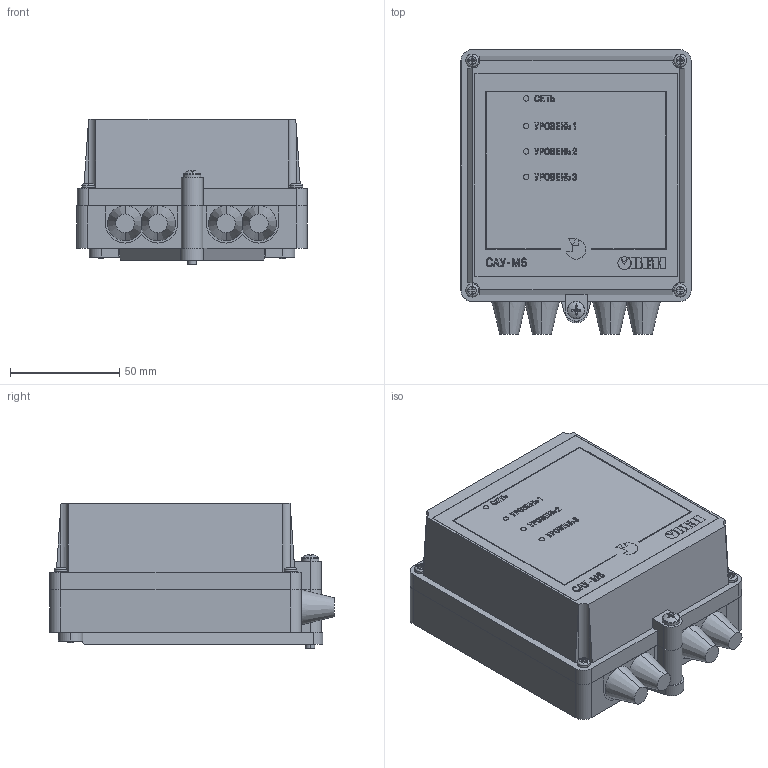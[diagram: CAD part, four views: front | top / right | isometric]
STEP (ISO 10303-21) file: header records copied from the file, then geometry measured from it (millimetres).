
FILE_DESCRIPTION (( 'STEP AP214' ), '1' );
FILE_NAME ('3D Ìîäåëü ÑÀÓ-Ì6.STEP', '2015-08-28T10:32:57', ( '' ), ( '' ), 'SwSTEP 2.0', 'SolidWorks 2013', '' );
FILE_SCHEMA (( 'AUTOMOTIVE_DESIGN' ));
Length unit declared in the file: millimetre
Products named in the file (10): Ïàíåëü ëèöåâàÿ ÑÀÓ-Ì6; 睯艜 膴樖樉; 鎔艜 襞旂 17473_M4x10; ﾊ煇鳫; 砑鳧罻; pan cross head_am_B18.6.7M - M4 x 0.7 x 40 Type I Cross Recessed PHMS --40N; ч蜱齁膱; Êîðïóñ Í_íèç; 扻豵鵨 狉瞂贂; 3D Ìîäåëü ÑÀÓ-Ì6
Assembly tree (15 placements, depth 2):
  3D Ìîäåëü ÑÀÓ-Ì6
    扻豵鵨 狉瞂贂
    Êîðïóñ Í_íèç
    ч蜱齁膱  x2
    pan cross head_am_B18.6.7M - M4 x 0.7 x 40 Type I Cross Recessed PHMS --40N
    砑鳧罻
    ﾊ煇鳫
    鎔艜 襞旂 17473_M4x10  x2
    睯艜 膴樖樉  x5
    Ïàíåëü ëèöåâàÿ ÑÀÓ-Ì6
Bounding box: 105.15 x 130 x 66.6 mm (x, y, z)
Volume: 153661.3 mm3; surface area: 131023.2 mm2
Topology: 15 solids, 15 shells, 995 faces, 2592 edges, 1712 vertices
Faces by surface type: plane 651, bspline 169, cylinder 121, torus 26, cone 22, sphere 6
Entity records: 34344 total; most frequent: CARTESIAN_POINT 6938, ORIENTED_EDGE 4500, DIRECTION 3565, EDGE_CURVE 2250, LINE 1599, VECTOR 1599, VERTEX_POINT 1492, AXIS2_PLACEMENT_3D 983
